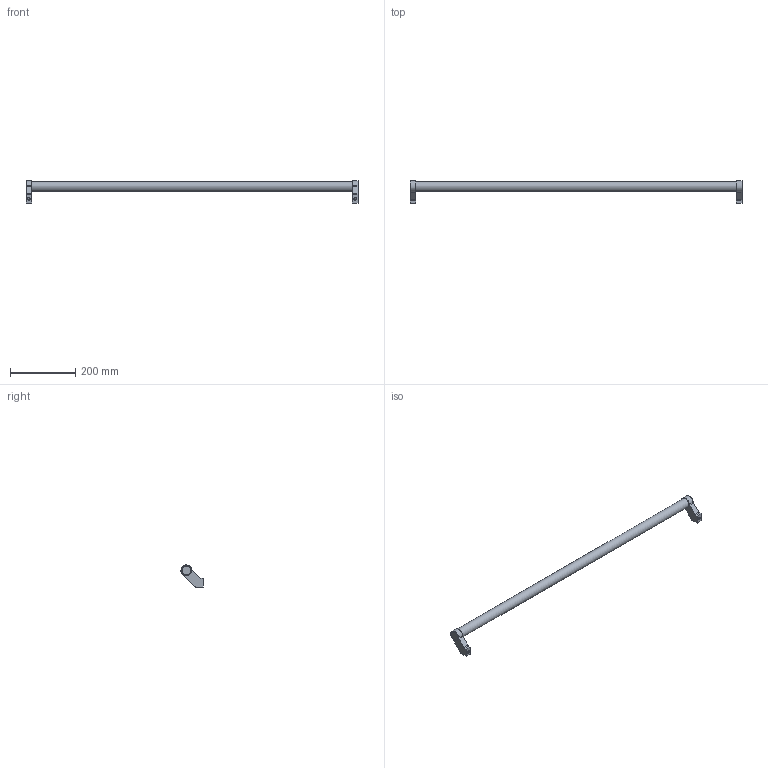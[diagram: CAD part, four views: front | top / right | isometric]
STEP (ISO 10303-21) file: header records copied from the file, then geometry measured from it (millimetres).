
FILE_DESCRIPTION( ( 'STEP AP203' ), '1' );
FILE_NAME( 'C:/Temp/Ganter_Step_05_03_2020/data/1_2/gn333/Tubular handle GN 333-30-1000-A-EL.stp', '2020-03-05T10:16:26', ( 'License CC BY-ND 4.0' ), ( 'CADENAS' ), ' ', 'PARTsolutions', ' ' );
FILE_SCHEMA( ( 'CONFIG_CONTROL_DESIGN' ) );
Length unit declared in the file: millimetre
Products named in the file (1): _Tubular handle GN 333-30-1000-A-EL
Bounding box: 1017 x 67.96 x 67.99 mm (x, y, z)
Volume: 776406.4 mm3; surface area: 109586.7 mm2
Topology: 1 solids, 1 shells, 47 faces, 108 edges, 69 vertices
Faces by surface type: plane 26, cylinder 15, cone 4, torus 2
Full cylindrical faces by diameter (mm): 6.647 x2, 8.5 x2, 30 x3
Entity records: 1326 total; most frequent: CARTESIAN_POINT 270, DIRECTION 216, ORIENTED_EDGE 184, EDGE_CURVE 92, AXIS2_PLACEMENT_3D 84, VERTEX_POINT 66, EDGE_LOOP 64, FACE_OUTER_BOUND 54
